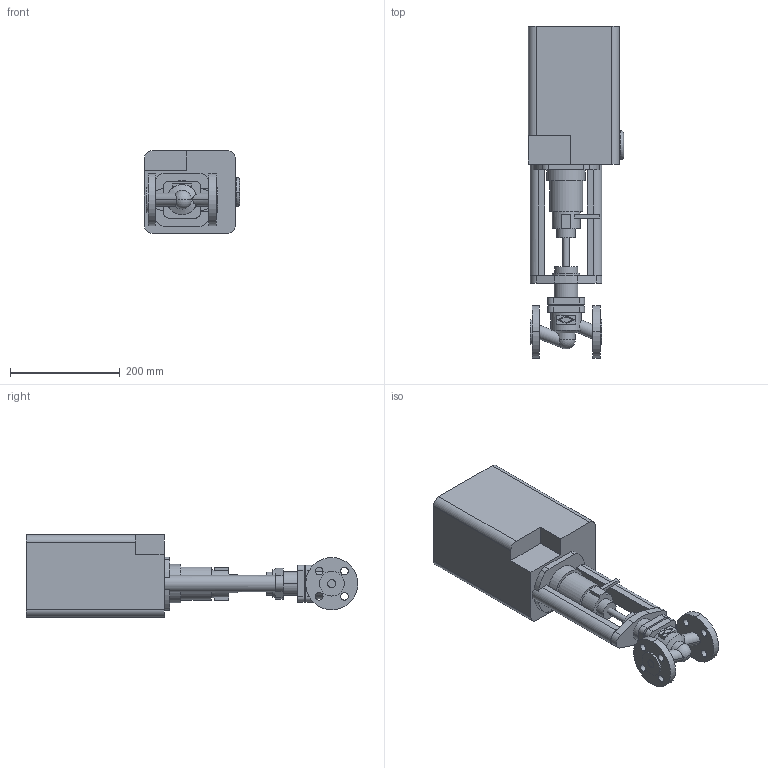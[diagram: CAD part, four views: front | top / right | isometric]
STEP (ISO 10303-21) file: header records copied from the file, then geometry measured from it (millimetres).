
FILE_DESCRIPTION(('OneSpaceDesigner STEP Export'),'2;1');
FILE_NAME('c000000346.stp','2005-02-16T11:31:07',(''),(''),'OneSpace Designer STEP processor (Jan. 2003) for AP203(Solid Model)','OneSpace Designer 12.01D 09-Jul-2004 (C) CoCreate Software GmbH','');
FILE_SCHEMA(('CONFIG_CONTROL_DESIGN'));
Length unit declared in the file: millimetre
Products named in the file (2): 1; 2
Bounding box: 173 x 603.5 x 150 mm (x, y, z)
Volume: 7313942.1 mm3; surface area: 360469.4 mm2
Topology: 2 solids, 2 shells, 174 faces, 440 edges, 291 vertices
Faces by surface type: plane 86, cylinder 82, cone 2, sphere 2, torus 2
Entity records: 5163 total; most frequent: CARTESIAN_POINT 976, ORIENTED_EDGE 876, DIRECTION 775, EDGE_CURVE 438, VERTEX_POINT 291, AXIS2_PLACEMENT_3D 267, VECTOR 241, LINE 241
